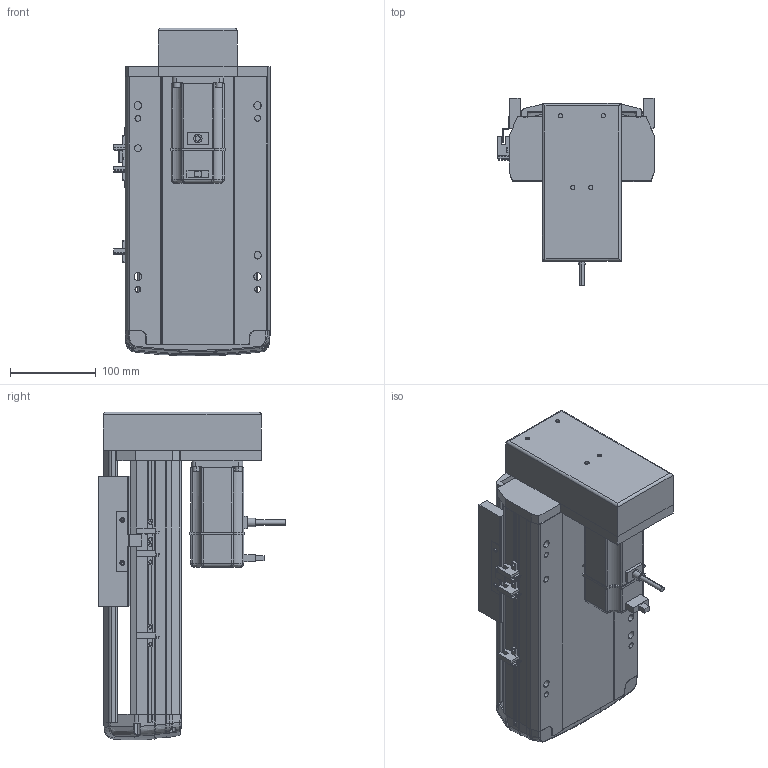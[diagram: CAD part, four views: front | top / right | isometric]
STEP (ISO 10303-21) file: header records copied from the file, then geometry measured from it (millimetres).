
FILE_DESCRIPTION (( 'STEP AP214' ), '1' );
FILE_NAME ('RTH17-XX-100-M-M40-C4.STEP', '2025-10-24T09:01:55', ( '' ), ( '' ), 'SwSTEP 2.0', 'SolidWorks 2018', '' );
FILE_SCHEMA (( 'AUTOMOTIVE_DESIGN' ));
Length unit declared in the file: millimetre
Products named in the file (10): N_RTH17-M-011底座^RTH17-XX-XX-M-M40-C4（方程式）; N_RTH-BL-012 感应片(外置)^RTH17-XX-XX-M-M40-C4（方程式）; N_M40^RTH17-XX-XX-M-M40-C4（方程式）; N_RTH17-M-008-P40电机安装板下折^RTH17-XX-XX-M-M40-C4（方程式）; N_RTH17-E-004丝杆螺母连接座^RTH17-XX-XX-M-M40-C4（方程式）; N_RTH17-M-018盖子^RTH17-XX-XX-M-M40-C4（方程式）; RTH17-XX-100-M-M40-C4; N_OMRON EE-SX672 換覜ん^RTH17-XX-XX-M-M40-C4ㄗ源最宒ㄘ; N_RTH17-GY-001P^RTH17-XX-XX-M-M40-C4（方程式）; N_RTH17-M-007上盖^RTH17-XX-XX-M-M40-C4（方程式）
Assembly tree (11 placements, depth 2):
  RTH17-XX-100-M-M40-C4
    N_RTH17-M-011底座^RTH17-XX-XX-M-M40-C4（方程式）
    N_RTH17-M-007上盖^RTH17-XX-XX-M-M40-C4（方程式）
    N_M40^RTH17-XX-XX-M-M40-C4（方程式）
    N_OMRON EE-SX672 換覜ん^RTH17-XX-XX-M-M40-C4ㄗ源最宒ㄘ  x3
    N_RTH-BL-012 感应片(外置)^RTH17-XX-XX-M-M40-C4（方程式）
    N_RTH17-M-008-P40电机安装板下折^RTH17-XX-XX-M-M40-C4（方程式）
    N_RTH17-M-018盖子^RTH17-XX-XX-M-M40-C4（方程式）
    N_RTH17-E-004丝杆螺母连接座^RTH17-XX-XX-M-M40-C4（方程式）
    N_RTH17-GY-001P^RTH17-XX-XX-M-M40-C4（方程式）
Bounding box: 183.5 x 219 x 383.27 mm (x, y, z)
Volume: 3649004 mm3; surface area: 611624.5 mm2
Topology: 10 solids, 12 shells, 1599 faces, 4428 edges, 2884 vertices
Faces by surface type: plane 824, cylinder 408, bspline 330, cone 28, torus 9
Entity records: 45776 total; most frequent: CARTESIAN_POINT 18644, ORIENTED_EDGE 5880, DIRECTION 4840, EDGE_CURVE 2944, VERTEX_POINT 1920, LINE 1702, VECTOR 1702, AXIS2_PLACEMENT_3D 1569
